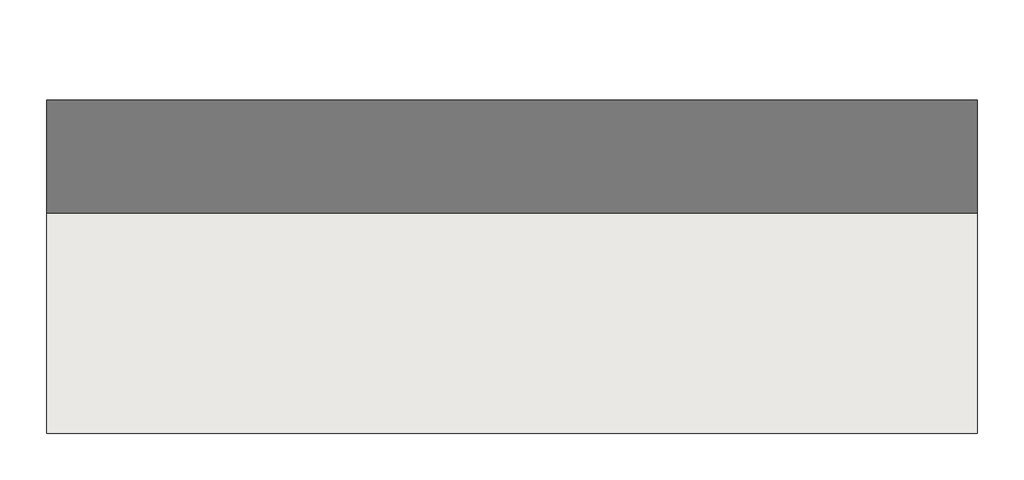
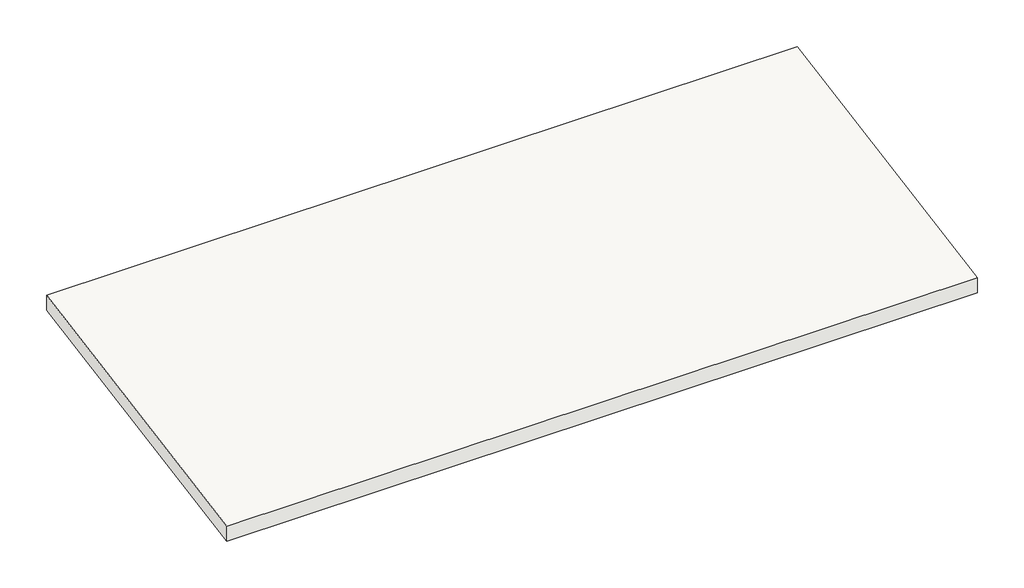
# One storey: 1 roof.
"""IFC4 building model written with IfcOpenShell, lengths in millimetres."""

from ifc_helpers import new_model, si_unit, frame, origin, place, context, project, spatial, polyline, outline, extrude, element, save

model = new_model("IFC4")

# Units and contexts
model_context = context("Model", 3, world=origin())
ifc_project = project(units=[si_unit("LENGTHUNIT", "METRE", prefix="MILLI")], contexts=[model_context])

# Site, building, storey
site = spatial("IfcSite", under=ifc_project)
building = spatial("IfcBuilding", under=site)
storey = spatial("IfcBuildingStorey", under=building, Name="03 屋頂", Elevation=4000.0)

# Roof
placement = place(None, origin())
element("IfcRoof", 1, ObjectType="一般 - 400mm", at=placement, inside=storey, context=model_context, shape_type="SweptSolid", body=[
    extrude(outline(polyline([(-5949.1637817, 4406.1706448), (1950.8362183, 5799.1537924), (1950.8362183, 5392.9831476), (-5949.1637817, 4000.0), (-5949.1637817, 4406.1706448)])), frame((-7347.0554883, 0.0, 0.0), z_axis=(1.0, 0.0, 0.0), x_axis=(0.0, 1.0, 0.0)), (0.0, 0.0, 1.0), 19000.0),
])

save(model, "model.ifc")
